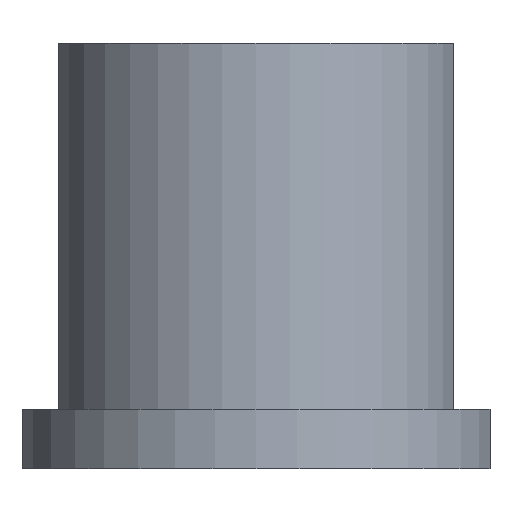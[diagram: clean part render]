
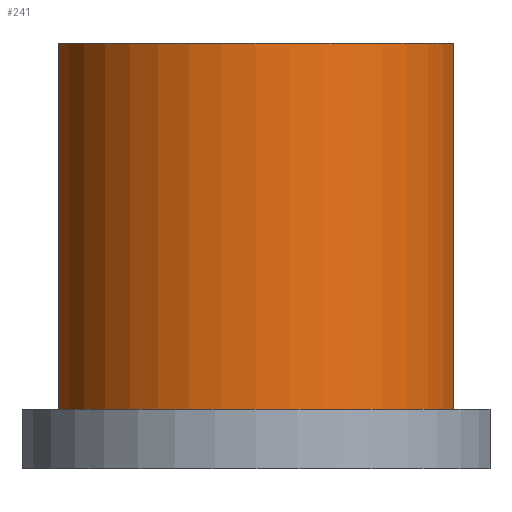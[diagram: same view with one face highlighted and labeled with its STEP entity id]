
A CAD part, front view. The second image highlights one B-rep face of the part: STEP entity #241.
In plain terms, the highlighted cylindrical face has radius 6.8 mm (diameter 13.6 mm), a partial arc.
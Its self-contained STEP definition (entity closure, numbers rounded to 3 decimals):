
#44 = PLANE('',#45);
#45 = AXIS2_PLACEMENT_3D('',#46,#47,#48);
#46 = CARTESIAN_POINT('',(82.,63.5,140.2));
#47 = DIRECTION('',(0.,1.,0.));
#48 = DIRECTION('',(0.,0.,1.));
#73 = PLANE('',#74);
#74 = AXIS2_PLACEMENT_3D('',#75,#76,#77);
#75 = CARTESIAN_POINT('',(90.,65.,142.3));
#76 = DIRECTION('',(0.,0.,1.));
#77 = DIRECTION('',(1.,0.,-0.));
#166 = EDGE_CURVE('',#167,#169,#171,.T.);
#167 = VERTEX_POINT('',#168);
#168 = CARTESIAN_POINT('',(96.632,63.5,142.3));
#169 = VERTEX_POINT('',#170);
#170 = CARTESIAN_POINT('',(83.368,63.5,142.3));
#171 = SURFACE_CURVE('',#172,(#177,#188),.PCURVE_S1.);
#172 = CIRCLE('',#173,6.8);
#173 = AXIS2_PLACEMENT_3D('',#174,#175,#176);
#174 = CARTESIAN_POINT('',(90.,65.,142.3));
#175 = DIRECTION('',(0.,0.,-1.));
#176 = DIRECTION('',(-0.975,0.221,0.));
#177 = PCURVE('',#73,#178);
#178 = DEFINITIONAL_REPRESENTATION('',(#179),#187);
#179 = ( BOUNDED_CURVE() B_SPLINE_CURVE(2,(#180,#181,#182,#183,#184,#185
,#186),.UNSPECIFIED.,.T.,.F.) B_SPLINE_CURVE_WITH_KNOTS((1,2,2,2,2,1),(
    -2.094,0.,2.094,4.189,6.283,
8.378),.UNSPECIFIED.) CURVE() GEOMETRIC_REPRESENTATION_ITEM() 
RATIONAL_B_SPLINE_CURVE((1.,0.5,1.,0.5,1.,0.5,1.)) REPRESENTATION_ITEM(
  '') );
#180 = CARTESIAN_POINT('',(-6.632,1.5));
#181 = CARTESIAN_POINT('',(-4.034,12.988));
#182 = CARTESIAN_POINT('',(4.615,4.994));
#183 = CARTESIAN_POINT('',(13.265,-3.));
#184 = CARTESIAN_POINT('',(2.017,-6.494));
#185 = CARTESIAN_POINT('',(-9.231,-9.988));
#186 = CARTESIAN_POINT('',(-6.632,1.5));
#187 = ( GEOMETRIC_REPRESENTATION_CONTEXT(2) 
PARAMETRIC_REPRESENTATION_CONTEXT() REPRESENTATION_CONTEXT('2D SPACE',''
  ) );
#188 = PCURVE('',#189,#194);
#189 = CYLINDRICAL_SURFACE('',#190,6.8);
#190 = AXIS2_PLACEMENT_3D('',#191,#192,#193);
#191 = CARTESIAN_POINT('',(90.,65.,142.3));
#192 = DIRECTION('',(0.,0.,1.));
#193 = DIRECTION('',(1.,0.,-0.));
#194 = DEFINITIONAL_REPRESENTATION('',(#195),#199);
#195 = LINE('',#196,#197);
#196 = CARTESIAN_POINT('',(9.202,0.));
#197 = VECTOR('',#198,1.);
#198 = DIRECTION('',(-1.,-0.));
#199 = ( GEOMETRIC_REPRESENTATION_CONTEXT(2) 
PARAMETRIC_REPRESENTATION_CONTEXT() REPRESENTATION_CONTEXT('2D SPACE',''
  ) );
#241 = ADVANCED_FACE('',(#242),#189,.T.);
#242 = FACE_BOUND('',#243,.T.);
#243 = EDGE_LOOP('',(#244,#267,#300,#321));
#244 = ORIENTED_EDGE('',*,*,#245,.F.);
#245 = EDGE_CURVE('',#246,#167,#248,.T.);
#246 = VERTEX_POINT('',#247);
#247 = CARTESIAN_POINT('',(96.632,63.5,154.6));
#248 = SURFACE_CURVE('',#249,(#253,#260),.PCURVE_S1.);
#249 = LINE('',#250,#251);
#250 = CARTESIAN_POINT('',(96.632,63.5,154.6));
#251 = VECTOR('',#252,1.);
#252 = DIRECTION('',(0.,0.,-1.));
#253 = PCURVE('',#189,#254);
#254 = DEFINITIONAL_REPRESENTATION('',(#255),#259);
#255 = LINE('',#256,#257);
#256 = CARTESIAN_POINT('',(6.061,12.3));
#257 = VECTOR('',#258,1.);
#258 = DIRECTION('',(-0.,-1.));
#259 = ( GEOMETRIC_REPRESENTATION_CONTEXT(2) 
PARAMETRIC_REPRESENTATION_CONTEXT() REPRESENTATION_CONTEXT('2D SPACE',''
  ) );
#260 = PCURVE('',#44,#261);
#261 = DEFINITIONAL_REPRESENTATION('',(#262),#266);
#262 = LINE('',#263,#264);
#263 = CARTESIAN_POINT('',(14.4,14.632));
#264 = VECTOR('',#265,1.);
#265 = DIRECTION('',(-1.,0.));
#266 = ( GEOMETRIC_REPRESENTATION_CONTEXT(2) 
PARAMETRIC_REPRESENTATION_CONTEXT() REPRESENTATION_CONTEXT('2D SPACE',''
  ) );
#267 = ORIENTED_EDGE('',*,*,#268,.T.);
#268 = EDGE_CURVE('',#246,#269,#271,.T.);
#269 = VERTEX_POINT('',#270);
#270 = CARTESIAN_POINT('',(83.368,63.5,154.6));
#271 = SURFACE_CURVE('',#272,(#277,#284),.PCURVE_S1.);
#272 = CIRCLE('',#273,6.8);
#273 = AXIS2_PLACEMENT_3D('',#274,#275,#276);
#274 = CARTESIAN_POINT('',(90.,65.,154.6));
#275 = DIRECTION('',(0.,0.,-1.));
#276 = DIRECTION('',(-0.975,0.221,0.));
#277 = PCURVE('',#189,#278);
#278 = DEFINITIONAL_REPRESENTATION('',(#279),#283);
#279 = LINE('',#280,#281);
#280 = CARTESIAN_POINT('',(9.202,12.3));
#281 = VECTOR('',#282,1.);
#282 = DIRECTION('',(-1.,-0.));
#283 = ( GEOMETRIC_REPRESENTATION_CONTEXT(2) 
PARAMETRIC_REPRESENTATION_CONTEXT() REPRESENTATION_CONTEXT('2D SPACE',''
  ) );
#284 = PCURVE('',#285,#290);
#285 = PLANE('',#286);
#286 = AXIS2_PLACEMENT_3D('',#287,#288,#289);
#287 = CARTESIAN_POINT('',(90.,65.,154.6));
#288 = DIRECTION('',(0.,0.,1.));
#289 = DIRECTION('',(1.,0.,-0.));
#290 = DEFINITIONAL_REPRESENTATION('',(#291),#299);
#291 = ( BOUNDED_CURVE() B_SPLINE_CURVE(2,(#292,#293,#294,#295,#296,#297
,#298),.UNSPECIFIED.,.T.,.F.) B_SPLINE_CURVE_WITH_KNOTS((1,2,2,2,2,1),(
    -2.094,0.,2.094,4.189,6.283,
8.378),.UNSPECIFIED.) CURVE() GEOMETRIC_REPRESENTATION_ITEM() 
RATIONAL_B_SPLINE_CURVE((1.,0.5,1.,0.5,1.,0.5,1.)) REPRESENTATION_ITEM(
  '') );
#292 = CARTESIAN_POINT('',(-6.632,1.5));
#293 = CARTESIAN_POINT('',(-4.034,12.988));
#294 = CARTESIAN_POINT('',(4.615,4.994));
#295 = CARTESIAN_POINT('',(13.265,-3.));
#296 = CARTESIAN_POINT('',(2.017,-6.494));
#297 = CARTESIAN_POINT('',(-9.231,-9.988));
#298 = CARTESIAN_POINT('',(-6.632,1.5));
#299 = ( GEOMETRIC_REPRESENTATION_CONTEXT(2) 
PARAMETRIC_REPRESENTATION_CONTEXT() REPRESENTATION_CONTEXT('2D SPACE',''
  ) );
#300 = ORIENTED_EDGE('',*,*,#301,.F.);
#301 = EDGE_CURVE('',#169,#269,#302,.T.);
#302 = SURFACE_CURVE('',#303,(#307,#314),.PCURVE_S1.);
#303 = LINE('',#304,#305);
#304 = CARTESIAN_POINT('',(83.368,63.5,142.3));
#305 = VECTOR('',#306,1.);
#306 = DIRECTION('',(0.,0.,1.));
#307 = PCURVE('',#189,#308);
#308 = DEFINITIONAL_REPRESENTATION('',(#309),#313);
#309 = LINE('',#310,#311);
#310 = CARTESIAN_POINT('',(3.364,0.));
#311 = VECTOR('',#312,1.);
#312 = DIRECTION('',(0.,1.));
#313 = ( GEOMETRIC_REPRESENTATION_CONTEXT(2) 
PARAMETRIC_REPRESENTATION_CONTEXT() REPRESENTATION_CONTEXT('2D SPACE',''
  ) );
#314 = PCURVE('',#44,#315);
#315 = DEFINITIONAL_REPRESENTATION('',(#316),#320);
#316 = LINE('',#317,#318);
#317 = CARTESIAN_POINT('',(2.1,1.368));
#318 = VECTOR('',#319,1.);
#319 = DIRECTION('',(1.,0.));
#320 = ( GEOMETRIC_REPRESENTATION_CONTEXT(2) 
PARAMETRIC_REPRESENTATION_CONTEXT() REPRESENTATION_CONTEXT('2D SPACE',''
  ) );
#321 = ORIENTED_EDGE('',*,*,#166,.F.);
